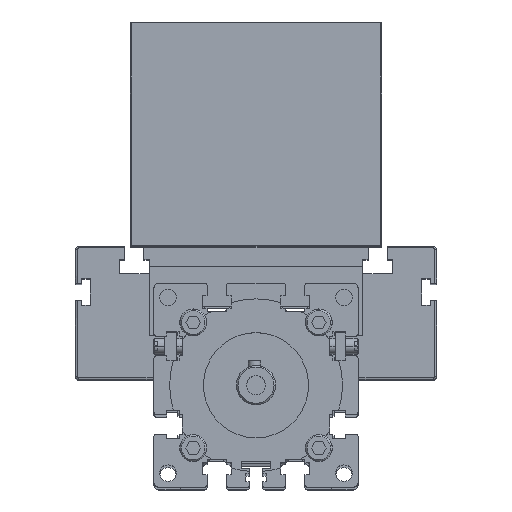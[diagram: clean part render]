
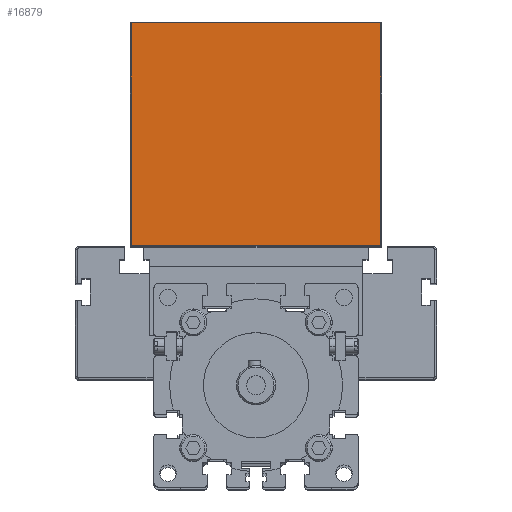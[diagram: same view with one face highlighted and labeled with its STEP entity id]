
A CAD part, top view. The second image highlights one B-rep face of the part: STEP entity #16879.
In plain terms, the highlighted planar face has unit normal (0, 0, 1).
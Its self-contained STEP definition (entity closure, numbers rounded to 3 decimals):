
#72 = EDGE_CURVE ( 'NONE', #21150, #24859, #1969, .T. ) ;
#153 = EDGE_LOOP ( 'NONE', ( #601, #15880, #13305, #14797 ) ) ;
#357 = CARTESIAN_POINT ( 'NONE',  ( 159.5, 0.5, 155. ) ) ;
#601 = ORIENTED_EDGE ( 'NONE', *, *, #72, .T. ) ;
#1969 = LINE ( 'NONE', #31251, #18177 ) ;
#2436 = EDGE_CURVE ( 'NONE', #2478, #21150, #11369, .T. ) ;
#2478 = VERTEX_POINT ( 'NONE', #15704 ) ;
#11369 = LINE ( 'NONE', #22918, #28588 ) ;
#12860 = DIRECTION ( 'NONE',  ( 0., 0., -1. ) ) ;
#13305 = ORIENTED_EDGE ( 'NONE', *, *, #24779, .T. ) ;
#14035 = DIRECTION ( 'NONE',  ( 0., 1., 0. ) ) ;
#14542 = VERTEX_POINT ( 'NONE', #17208 ) ;
#14797 = ORIENTED_EDGE ( 'NONE', *, *, #2436, .T. ) ;
#14983 = FACE_OUTER_BOUND ( 'NONE', #153, .T. ) ;
#15704 = CARTESIAN_POINT ( 'NONE',  ( 0.5, 0.5, 155. ) ) ;
#15880 = ORIENTED_EDGE ( 'NONE', *, *, #32796, .T. ) ;
#16311 = DIRECTION ( 'NONE',  ( -1., 0., 0. ) ) ;
#16879 = ADVANCED_FACE ( 'NONE', ( #14983 ), #27067, .F. ) ;
#17208 = CARTESIAN_POINT ( 'NONE',  ( 0.5, 142.5, 155. ) ) ;
#18177 = VECTOR ( 'NONE', #14035, 1000. ) ;
#19352 = VECTOR ( 'NONE', #16311, 1000. ) ;
#20523 = LINE ( 'NONE', #28672, #23729 ) ;
#21150 = VERTEX_POINT ( 'NONE', #357 ) ;
#21422 = CARTESIAN_POINT ( 'NONE',  ( 160., 142.5, 155. ) ) ;
#22918 = CARTESIAN_POINT ( 'NONE',  ( 160., 0.5, 155. ) ) ;
#23729 = VECTOR ( 'NONE', #29050, 1000. ) ;
#24451 = LINE ( 'NONE', #21422, #19352 ) ;
#24779 = EDGE_CURVE ( 'NONE', #14542, #2478, #20523, .T. ) ;
#24859 = VERTEX_POINT ( 'NONE', #36361 ) ;
#25026 = AXIS2_PLACEMENT_3D ( 'NONE', #29530, #12860, #32166 ) ;
#26309 = DIRECTION ( 'NONE',  ( 1., 0., 0. ) ) ;
#27067 = PLANE ( 'NONE',  #25026 ) ;
#28588 = VECTOR ( 'NONE', #26309, 1000. ) ;
#28672 = CARTESIAN_POINT ( 'NONE',  ( 0.5, 0., 155. ) ) ;
#29050 = DIRECTION ( 'NONE',  ( 0., -1., 0. ) ) ;
#29530 = CARTESIAN_POINT ( 'NONE',  ( 160., 0., 155. ) ) ;
#31251 = CARTESIAN_POINT ( 'NONE',  ( 159.5, 143., 155. ) ) ;
#32166 = DIRECTION ( 'NONE',  ( -1., 0., 0. ) ) ;
#32796 = EDGE_CURVE ( 'NONE', #24859, #14542, #24451, .T. ) ;
#36361 = CARTESIAN_POINT ( 'NONE',  ( 159.5, 142.5, 155. ) ) ;
